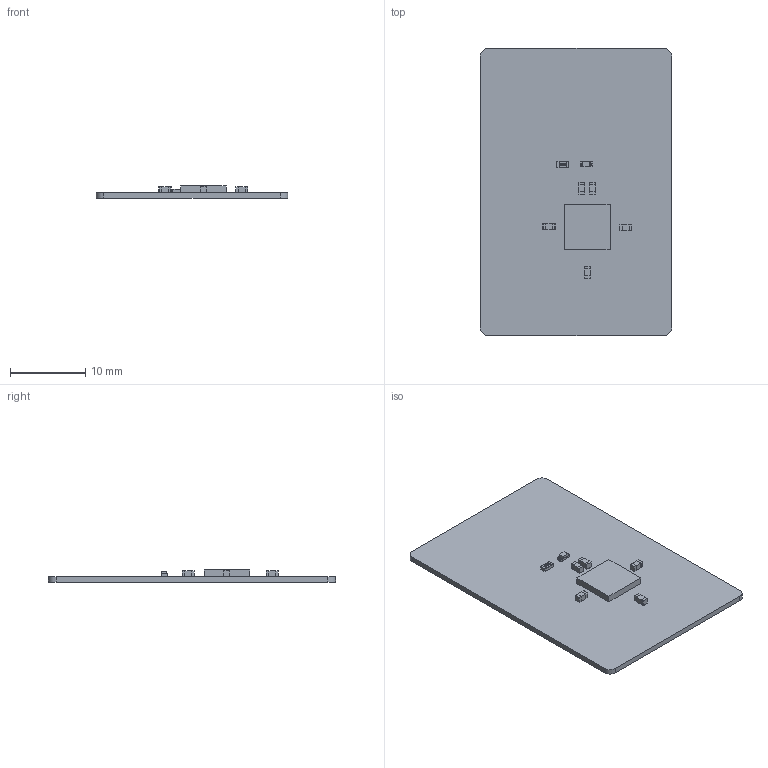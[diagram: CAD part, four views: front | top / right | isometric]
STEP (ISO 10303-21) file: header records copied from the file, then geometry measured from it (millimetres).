
FILE_DESCRIPTION(('Open CASCADE Model'),'2;1');
FILE_NAME('Open CASCADE Shape Model','2017-08-15T22:33:33',('Author'),( 'Open CASCADE'),'Open CASCADE STEP processor 6.8','Open CASCADE 6.8' ,'Unknown');
FILE_SCHEMA(('AUTOMOTIVE_DESIGN { 1 0 10303 214 1 1 1 1 }'));
Length unit declared in the file: millimetre
Products named in the file (1): PCB
Bounding box: 25.4 x 38.1 x 1.62 mm (x, y, z)
Volume: 732.8 mm3; surface area: 2167.9 mm2
Topology: 4 solids, 273 shells, 366 faces, 1488 edges, 1359 vertices
Faces by surface type: plane 187, cylinder 90, bspline 49, sphere 40
Entity records: 20797 total; most frequent: CARTESIAN_POINT 7023, DIRECTION 2289, ORIENTED_EDGE 1662, EDGE_CURVE 1448, VERTEX_POINT 1359, LINE 949, VECTOR 949, AXIS2_PLACEMENT_3D 670
